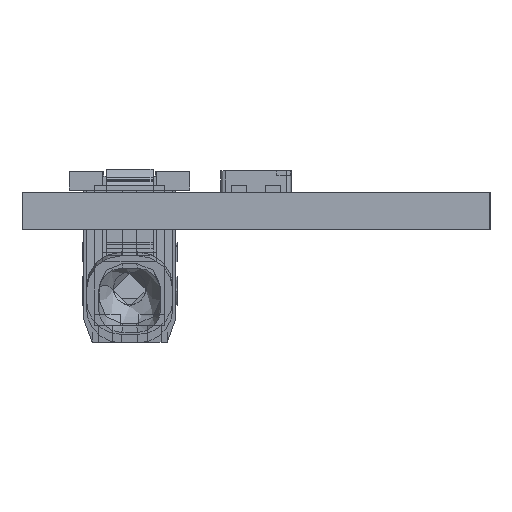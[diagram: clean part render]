
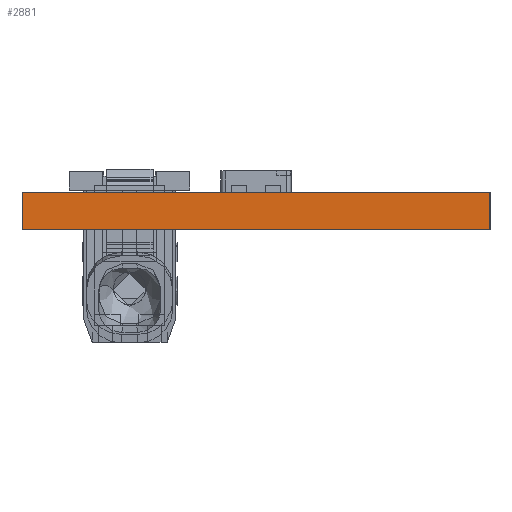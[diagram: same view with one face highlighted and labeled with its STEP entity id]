
A CAD part, left-side view. The second image highlights one B-rep face of the part: STEP entity #2881.
In plain terms, the highlighted planar face has unit normal (-1, 0, 0).
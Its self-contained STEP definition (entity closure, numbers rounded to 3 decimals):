
#2434=FACE_OUTER_BOUND('',#3919,.T.);
#2881=ADVANCED_FACE('',(#2434),#3341,.F.);
#3341=PLANE('',#11428);
#3919=EDGE_LOOP('',(#4810,#4811,#4812,#4813));
#4810=ORIENTED_EDGE('',*,*,#8113,.T.);
#4811=ORIENTED_EDGE('',*,*,#8210,.F.);
#4812=ORIENTED_EDGE('',*,*,#7934,.F.);
#4813=ORIENTED_EDGE('',*,*,#8238,.T.);
#7063=VERTEX_POINT('',#14638);
#7064=VERTEX_POINT('',#14640);
#7242=VERTEX_POINT('',#14997);
#7243=VERTEX_POINT('',#14999);
#7934=EDGE_CURVE('',#7063,#7064,#9220,.T.);
#8113=EDGE_CURVE('',#7243,#7242,#9343,.T.);
#8210=EDGE_CURVE('',#7064,#7242,#9418,.T.);
#8238=EDGE_CURVE('',#7063,#7243,#9446,.T.);
#9220=LINE('',#14639,#10284);
#9343=LINE('',#14998,#10407);
#9418=LINE('',#15179,#10482);
#9446=LINE('',#15222,#10510);
#10284=VECTOR('',#12104,1.);
#10407=VECTOR('',#12341,1.);
#10482=VECTOR('',#12486,1.);
#10510=VECTOR('',#12544,1.);
#11428=AXIS2_PLACEMENT_3D('',#15224,#12547,#12548);
#12104=DIRECTION('',(0.,1.,0.));
#12341=DIRECTION('',(0.,1.,0.));
#12486=DIRECTION('',(0.,0.,1.));
#12544=DIRECTION('',(0.,0.,1.));
#12547=DIRECTION('',(1.,0.,0.));
#12548=DIRECTION('',(0.,0.,-1.));
#14638=CARTESIAN_POINT('',(-725.,0.,-1.6));
#14639=CARTESIAN_POINT('',(-725.,0.,-1.6));
#14640=CARTESIAN_POINT('',(-725.,20.,-1.6));
#14997=CARTESIAN_POINT('',(-725.,20.,0.));
#14998=CARTESIAN_POINT('',(-725.,0.,0.));
#14999=CARTESIAN_POINT('',(-725.,0.,0.));
#15179=CARTESIAN_POINT('',(-725.,20.,-1.6));
#15222=CARTESIAN_POINT('',(-725.,0.,-1.6));
#15224=CARTESIAN_POINT('',(-725.,0.,-1.6));
